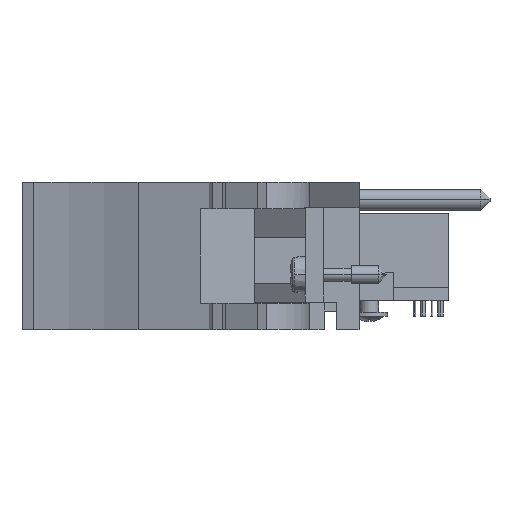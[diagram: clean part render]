
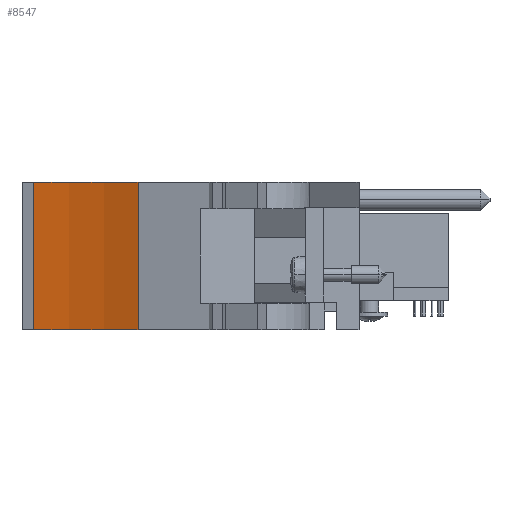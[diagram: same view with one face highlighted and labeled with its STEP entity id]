
A CAD part, front view. The second image highlights one B-rep face of the part: STEP entity #8547.
In plain terms, the highlighted cylindrical face has radius 51.46 mm (diameter 102.919 mm), a partial arc.
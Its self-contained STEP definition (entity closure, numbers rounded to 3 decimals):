
#455=CARTESIAN_POINT('',(-50.199,-151.15,17.653));
#456=DIRECTION('',(0.,0.,1.));
#457=DIRECTION('',(0.435,0.9,0.));
#458=AXIS2_PLACEMENT_3D('',#455,#456,#457);
#800=CARTESIAN_POINT('',(-50.199,-151.15,-2.362));
#801=DIRECTION('',(0.,0.,1.));
#802=DIRECTION('',(0.435,0.9,0.));
#803=AXIS2_PLACEMENT_3D('',#800,#801,#802);
#1018=DIRECTION('',(0.,0.,1.));
#1019=VECTOR('',#1018,20.015);
#1020=CARTESIAN_POINT('',(-41.986,-100.35,-2.362));
#1021=LINE('',#1020,#1019);
#1026=DIRECTION('',(0.,0.,1.));
#1027=VECTOR('',#1026,20.015);
#1028=CARTESIAN_POINT('',(-27.814,-104.814,-2.362));
#1029=LINE('',#1028,#1027);
#6109=CARTESIAN_POINT('',(-27.814,-104.814,-2.362));
#6110=CARTESIAN_POINT('',(-41.986,-100.35,-2.362));
#6111=VERTEX_POINT('',#6109);
#6112=VERTEX_POINT('',#6110);
#6113=CARTESIAN_POINT('',(-27.814,-104.814,17.653));
#6114=CARTESIAN_POINT('',(-41.986,-100.35,17.653));
#6115=VERTEX_POINT('',#6113);
#6116=VERTEX_POINT('',#6114);
#8535=CARTESIAN_POINT('',(-50.199,-151.15,17.653));
#8536=DIRECTION('',(0.,0.,1.));
#8537=DIRECTION('',(0.,1.,0.));
#8538=AXIS2_PLACEMENT_3D('',#8535,#8536,#8537);
#8539=CYLINDRICAL_SURFACE('',#8538,51.46);
#8540=ORIENTED_EDGE('',*,*,#8253,.T.);
#8541=ORIENTED_EDGE('',*,*,#8527,.T.);
#8542=ORIENTED_EDGE('',*,*,#7802,.F.);
#8544=ORIENTED_EDGE('',*,*,#8543,.F.);
#8545=EDGE_LOOP('',(#8540,#8541,#8542,#8544));
#8546=FACE_OUTER_BOUND('',#8545,.F.);
#459=CIRCLE('',#458,51.46);
#804=CIRCLE('',#803,51.46);
#7802=EDGE_CURVE('',#6115,#6116,#459,.T.);
#8253=EDGE_CURVE('',#6111,#6112,#804,.T.);
#8527=EDGE_CURVE('',#6112,#6116,#1021,.T.);
#8543=EDGE_CURVE('',#6111,#6115,#1029,.T.);
#8547=ADVANCED_FACE('',(#8546),#8539,.F.);
